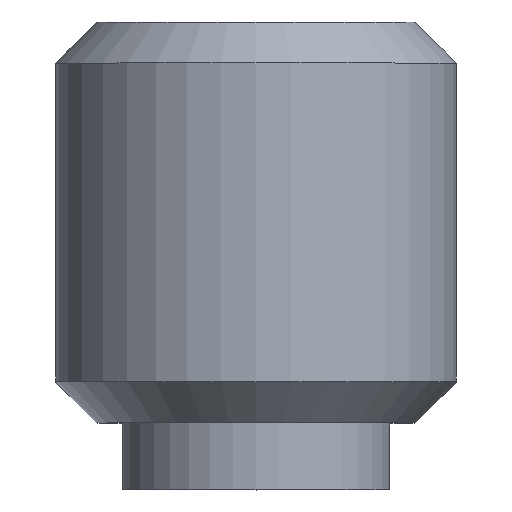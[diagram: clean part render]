
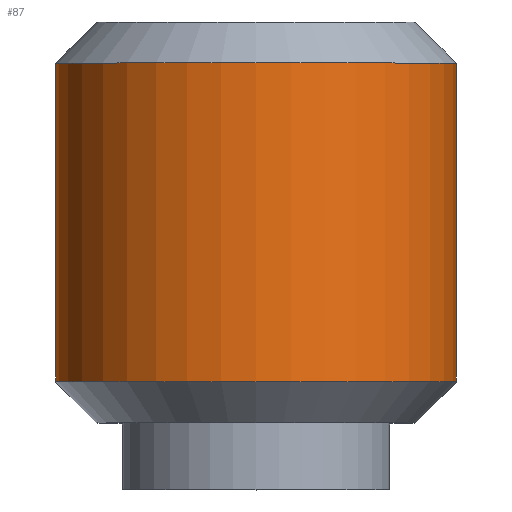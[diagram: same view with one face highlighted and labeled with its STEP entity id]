
A CAD part, top view. The second image highlights one B-rep face of the part: STEP entity #87.
In plain terms, the highlighted cylindrical face has radius 3 mm (diameter 6 mm), a full revolution.
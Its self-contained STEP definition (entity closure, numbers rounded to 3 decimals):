
#87 = ADVANCED_FACE( '', ( #118, #119 ), #120, .T. );
#118 = FACE_OUTER_BOUND( '', #152, .T. );
#119 = FACE_OUTER_BOUND( '', #153, .T. );
#120 = CYLINDRICAL_SURFACE( '', #154, 3. );
#152 = EDGE_LOOP( '', ( #238 ) );
#153 = EDGE_LOOP( '', ( #239 ) );
#154 = AXIS2_PLACEMENT_3D( '', #240, #241, #242 );
#238 = ORIENTED_EDGE( '', *, *, #270, .F. );
#239 = ORIENTED_EDGE( '', *, *, #271, .T. );
#240 = CARTESIAN_POINT( '', ( 0., 0., 0. ) );
#241 = DIRECTION( '', ( 0., 1., 0. ) );
#242 = DIRECTION( '', ( 0., 0., -1. ) );
#270 = EDGE_CURVE( '', #310, #310, #311, .T. );
#271 = EDGE_CURVE( '', #312, #312, #313, .T. );
#310 = VERTEX_POINT( '', #370 );
#311 = CIRCLE( '', #371, 3. );
#312 = VERTEX_POINT( '', #372 );
#313 = CIRCLE( '', #373, 3. );
#370 = CARTESIAN_POINT( '', ( 0., 1.614, -3. ) );
#371 = AXIS2_PLACEMENT_3D( '', #404, #405, #406 );
#372 = CARTESIAN_POINT( '', ( 0., 6.387, -3. ) );
#373 = AXIS2_PLACEMENT_3D( '', #407, #408, #409 );
#404 = CARTESIAN_POINT( '', ( 0., 1.614, 0. ) );
#405 = DIRECTION( '', ( 0., -1., 0. ) );
#406 = DIRECTION( '', ( 0., 0., -1. ) );
#407 = CARTESIAN_POINT( '', ( 0., 6.387, 0. ) );
#408 = DIRECTION( '', ( 0., -1., 0. ) );
#409 = DIRECTION( '', ( 0., 0., -1. ) );
